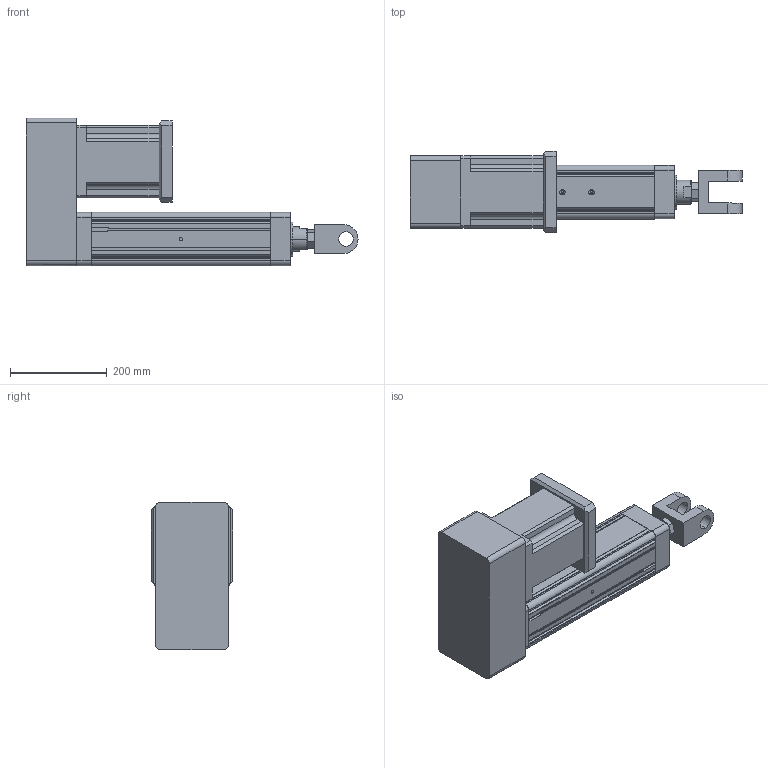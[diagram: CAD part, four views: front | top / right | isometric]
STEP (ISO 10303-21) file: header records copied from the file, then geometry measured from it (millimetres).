
FILE_DESCRIPTION (( 'STEP AP203' ), '1' );
FILE_NAME ('YRJ110-L200-H1K4.STEP', '2020-01-04T05:59:51', ( 'User' ), ( 'China' ), 'SwSTEP 2.0', 'SolidWorks 2016', '' );
FILE_SCHEMA (( 'CONFIG_CONTROL_DESIGN' ));
Length unit declared in the file: millimetre
Products named in the file (7): 095-100俴最倰第; H1-110-1; H1-110-2; 萇儂碟-110; 142熬厒儂; K4-110; YRJ110-L200-H1K4
Assembly tree (6 placements, depth 2):
  YRJ110-L200-H1K4
    095-100俴最倰第
    H1-110-1
    H1-110-2
    萇儂碟-110
    142熬厒儂
    K4-110
Bounding box: 686 x 168 x 305.5 mm (x, y, z)
Volume: 11614204.7 mm3; surface area: 844216.3 mm2
Topology: 6 solids, 6 shells, 331 faces, 908 edges, 581 vertices
Faces by surface type: plane 176, cylinder 120, cone 35
Entity records: 11402 total; most frequent: CARTESIAN_POINT 2145, DIRECTION 1797, ORIENTED_EDGE 1768, EDGE_CURVE 884, VECTOR 607, LINE 607, AXIS2_PLACEMENT_3D 595, VERTEX_POINT 581
